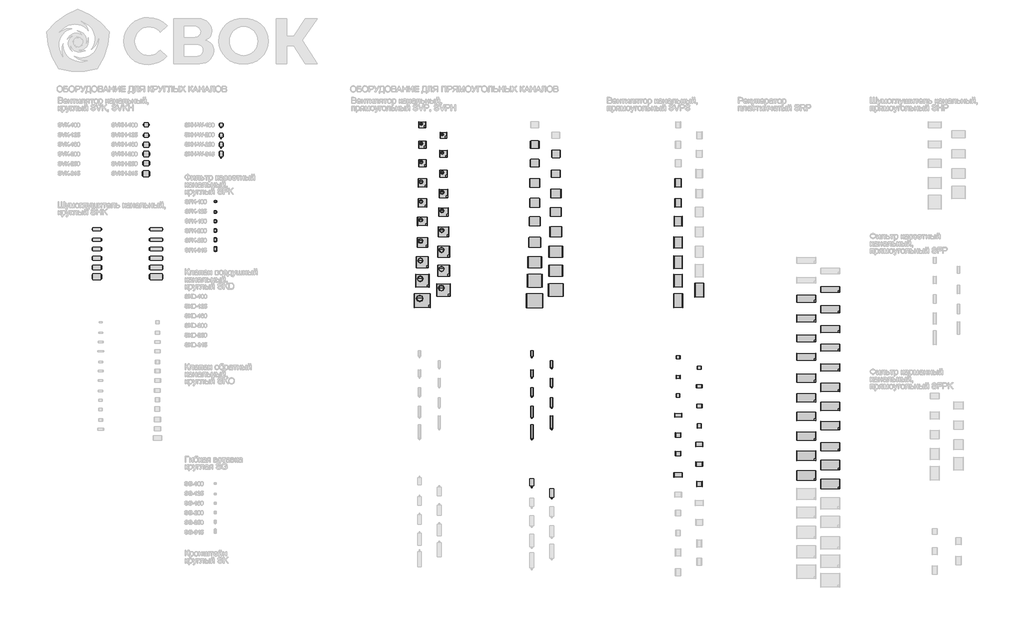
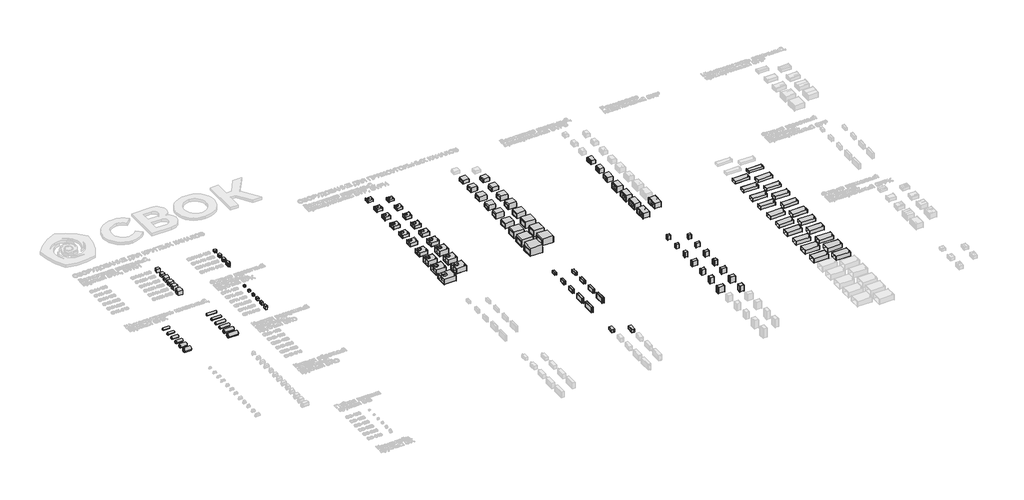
# One storey, part 2 of 31: 100 proxies, 18 dampers.
"""IFC4 building model written with IfcOpenShell, lengths in millimetres."""

from ifc_helpers import new_model, si_unit, origin, place, context, project, spatial, transform, mapped, element, save
from components import mechanical_equipment_2dddc4ea, mechanical_equipment_dcb78026, mechanical_equipment_cb800e3f, mechanical_equipment_2d8e173d, mechanical_equipment_c4cbaf2e, mechanical_equipment_7df6d9f4, mechanical_equipment_e96d5850, mechanical_equipment_5011dd88, mechanical_equipment_9b5d0357, mechanical_equipment_30f885cd, mechanical_equipment_d7fc5e09, mechanical_equipment_da5204e7, mechanical_equipment_16ef5390, mechanical_equipment_3a106ff5, mechanical_equipment_73fcf4e4, mechanical_equipment_ba056cf8, mechanical_equipment_08a73665, mechanical_equipment_8a46c2b9, mechanical_equipment_c179e901, mechanical_equipment_9b219624, mechanical_equipment_c9182f76, mechanical_equipment_2a61b2a6, mechanical_equipment_291a1020, mechanical_equipment_14c00c82, mechanical_equipment_2754de4d, mechanical_equipment_6cdd0354, mechanical_equipment_d871949b, mechanical_equipment_7f2987f5, mechanical_equipment_56067d51, mechanical_equipment_ec7d1ba4, mechanical_equipment_bd9f517a, mechanical_equipment_e5cbe710, mechanical_equipment_da63913f, mechanical_equipment_a99c537c, mechanical_equipment_67b06a08, mechanical_equipment_65e6200e, mechanical_equipment_d87ded08, mechanical_equipment_d0150384, mechanical_equipment_ec22e7db, mechanical_equipment_64b5c840, mechanical_equipment_bb8f5485, mechanical_equipment_36a0d534, mechanical_equipment_e328bcd5, mechanical_equipment_e2fa6b64, mechanical_equipment_d7a41091, mechanical_equipment_13f1d598, mechanical_equipment_c0174124, mechanical_equipment_df9b83cb, mechanical_equipment_9fc0d4ae, mechanical_equipment_28f21b0b, mechanical_equipment_bc9cfaa7, mechanical_equipment_96d1ef7d, mechanical_equipment_3e8a8446, mechanical_equipment_0f29fb4d, mechanical_equipment_15b2c1e0, mechanical_equipment_63632d9b, mechanical_equipment_16eab25d, mechanical_equipment_90fcd9c5, mechanical_equipment_c1b69434, mechanical_equipment_2ff812ec, mechanical_equipment_26e38f52, mechanical_equipment_aab2c1d2, mechanical_equipment_c664b790, mechanical_equipment_186e71d2, damper_bbc71dfa, damper_51019c5c, damper_d244b016, damper_0c9d338b, damper_0c81a020, damper_ecefcbed, damper_83553f87, damper_13c84012, damper_a21b50f8, damper_3751c1ea, damper_5eaaab7c, damper_b8da7f2a, sfk_100_f7b83489, sfk_125_d15dc6ad, sfk_160_7e5a682d, sfk_200_fe067b95, sfk_250_156bbf97, sfk_315_218a1dff

model = new_model("IFC4")

# Units and contexts
model_context = context("Model", 3, world=origin())
ifc_project = project(units=[si_unit("LENGTHUNIT", "METRE", prefix="MILLI")], contexts=[model_context])

# Site, building, storey
site = spatial("IfcSite", under=ifc_project)
building = spatial("IfcBuilding", under=site)
storey = spatial("IfcBuildingStorey", under=building, Name="Этаж 01", Elevation=0.0)

# Proxies
placement = place(None, origin())
mechanical_equipment_shape = mechanical_equipment_2dddc4ea(model_context)
element("IfcBuildingElementProxy", 1, Name="СВ_Вентилятор_КанальныйКруглый_DN100-315_SVK-SVKH : SVKH-100", ObjectType="СВ_Вентилятор_КанальныйКруглый_DN100-315_SVK-SVKH : SVKH-100", at=placement, inside=storey, context=model_context, shape_type="MappedRepresentation", body=[
    mapped(mechanical_equipment_shape, transform((7468.018566, -4100.0, 0.0), x_axis=(1.0, 0.0, 0.0), y_axis=(0.0, 1.0, 0.0), z_axis=(0.0, 0.0, 1.0))),
])
mechanical_equipment_2_shape = mechanical_equipment_dcb78026(model_context)
element("IfcBuildingElementProxy", 2, Name="СВ_Вентилятор_КанальныйКруглый_DN100-315_SVK-SVKH : SVKH-125", ObjectType="СВ_Вентилятор_КанальныйКруглый_DN100-315_SVK-SVKH : SVKH-125", at=placement, inside=storey, context=model_context, shape_type="MappedRepresentation", body=[
    mapped(mechanical_equipment_2_shape, transform((7468.018566, -4900.0, 0.0), x_axis=(1.0, 0.0, 0.0), y_axis=(0.0, 1.0, 0.0), z_axis=(0.0, 0.0, 1.0))),
])
mechanical_equipment_3_shape = mechanical_equipment_cb800e3f(model_context)
element("IfcBuildingElementProxy", 3, Name="СВ_Вентилятор_КанальныйКруглый_DN100-315_SVK-SVKH : SVKH-160", ObjectType="СВ_Вентилятор_КанальныйКруглый_DN100-315_SVK-SVKH : SVKH-160", at=placement, inside=storey, context=model_context, shape_type="MappedRepresentation", body=[
    mapped(mechanical_equipment_3_shape, transform((7468.018566, -5600.0, 0.0), x_axis=(1.0, 0.0, 0.0), y_axis=(0.0, 1.0, 0.0), z_axis=(0.0, 0.0, 1.0))),
])
mechanical_equipment_4_shape = mechanical_equipment_2d8e173d(model_context)
element("IfcBuildingElementProxy", 4, Name="СВ_Вентилятор_КанальныйКруглый_DN100-315_SVK-SVKH : SVKH-200", ObjectType="СВ_Вентилятор_КанальныйКруглый_DN100-315_SVK-SVKH : SVKH-200", at=placement, inside=storey, context=model_context, shape_type="MappedRepresentation", body=[
    mapped(mechanical_equipment_4_shape, transform((7468.018566, -6300.0, 0.0), x_axis=(1.0, 0.0, 0.0), y_axis=(0.0, 1.0, 0.0), z_axis=(0.0, 0.0, 1.0))),
])
mechanical_equipment_5_shape = mechanical_equipment_c4cbaf2e(model_context)
element("IfcBuildingElementProxy", 5, Name="СВ_Вентилятор_КанальныйКруглый_DN100-315_SVK-SVKH : SVKH-250", ObjectType="СВ_Вентилятор_КанальныйКруглый_DN100-315_SVK-SVKH : SVKH-250", at=placement, inside=storey, context=model_context, shape_type="MappedRepresentation", body=[
    mapped(mechanical_equipment_5_shape, transform((7468.018566, -7000.0, 0.0), x_axis=(1.0, 0.0, 0.0), y_axis=(0.0, 1.0, 0.0), z_axis=(0.0, 0.0, 1.0))),
])
mechanical_equipment_6_shape = mechanical_equipment_7df6d9f4(model_context)
element("IfcBuildingElementProxy", 6, Name="СВ_Вентилятор_КанальныйКруглый_DN100-315_SVK-SVKH : SVKH-315", ObjectType="СВ_Вентилятор_КанальныйКруглый_DN100-315_SVK-SVKH : SVKH-315", at=placement, inside=storey, context=model_context, shape_type="MappedRepresentation", body=[
    mapped(mechanical_equipment_6_shape, transform((7468.018566, -7800.0, 0.0), x_axis=(1.0, 0.0, 0.0), y_axis=(0.0, 1.0, 0.0), z_axis=(0.0, 0.0, 1.0))),
])
mechanical_equipment_7_shape = mechanical_equipment_e96d5850(model_context)
element("IfcBuildingElementProxy", 7, Name="СВ_ВоздухонагревательВодяной_КанальныйКруглый_DN160-315_SKH-W : SKH-W-160", ObjectType="СВ_ВоздухонагревательВодяной_КанальныйКруглый_DN160-315_SKH-W : SKH-W-160", at=placement, inside=storey, context=model_context, shape_type="MappedRepresentation", body=[
    mapped(mechanical_equipment_7_shape, transform((13148.018566, -4100.0, 0.0), x_axis=(1.0, 0.0, 0.0), y_axis=(0.0, 1.0, 0.0), z_axis=(0.0, 0.0, 1.0))),
])
mechanical_equipment_8_shape = mechanical_equipment_5011dd88(model_context)
element("IfcBuildingElementProxy", 8, Name="СВ_ВоздухонагревательВодяной_КанальныйКруглый_DN160-315_SKH-W : SKH-W-200", ObjectType="СВ_ВоздухонагревательВодяной_КанальныйКруглый_DN160-315_SKH-W : SKH-W-200", at=placement, inside=storey, context=model_context, shape_type="MappedRepresentation", body=[
    mapped(mechanical_equipment_8_shape, transform((13148.018566, -4900.0, 0.0), x_axis=(1.0, 0.0, 0.0), y_axis=(0.0, 1.0, 0.0), z_axis=(0.0, 0.0, 1.0))),
])
mechanical_equipment_9_shape = mechanical_equipment_9b5d0357(model_context)
element("IfcBuildingElementProxy", 9, Name="СВ_ВоздухонагревательВодяной_КанальныйКруглый_DN160-315_SKH-W : SKH-W-250", ObjectType="СВ_ВоздухонагревательВодяной_КанальныйКруглый_DN160-315_SKH-W : SKH-W-250", at=placement, inside=storey, context=model_context, shape_type="MappedRepresentation", body=[
    mapped(mechanical_equipment_9_shape, transform((13148.018566, -5600.0, 0.0), x_axis=(1.0, 0.0, 0.0), y_axis=(0.0, 1.0, 0.0), z_axis=(0.0, 0.0, 1.0))),
])
mechanical_equipment_10_shape = mechanical_equipment_30f885cd(model_context)
element("IfcBuildingElementProxy", 10, Name="СВ_ВоздухонагревательВодяной_КанальныйКруглый_DN160-315_SKH-W : SKH-W-315", ObjectType="СВ_ВоздухонагревательВодяной_КанальныйКруглый_DN160-315_SKH-W : SKH-W-315", at=placement, inside=storey, context=model_context, shape_type="MappedRepresentation", body=[
    mapped(mechanical_equipment_10_shape, transform((13148.018566, -6300.0, 0.0), x_axis=(1.0, 0.0, 0.0), y_axis=(0.0, 1.0, 0.0), z_axis=(0.0, 0.0, 1.0))),
])
mechanical_equipment_11_shape = mechanical_equipment_d7fc5e09(model_context)
element("IfcBuildingElementProxy", 11, Name="СВ_Вентилятор_КанальныйПрямоугольный_200-1000_SVP-SVPH : SVP-400x200/200.4Е", ObjectType="СВ_Вентилятор_КанальныйПрямоугольный_200-1000_SVP-SVPH : SVP-400x200/200.4Е", at=placement, inside=storey, context=model_context, shape_type="MappedRepresentation", body=[
    mapped(mechanical_equipment_11_shape, transform((28368.018566, -4100.0, 0.0), x_axis=(1.0, 0.0, 0.0), y_axis=(0.0, 1.0, 0.0), z_axis=(0.0, 0.0, 1.0))),
])
element("IfcBuildingElementProxy", 12, Name="СВ_Вентилятор_КанальныйПрямоугольный_200-1000_SVP-SVPH : SVP-400x200/200.4D", ObjectType="СВ_Вентилятор_КанальныйПрямоугольный_200-1000_SVP-SVPH : SVP-400x200/200.4D", at=placement, inside=storey, context=model_context, shape_type="MappedRepresentation", body=[
    mapped(mechanical_equipment_11_shape, transform((29968.018566, -4900.0, 0.0), x_axis=(1.0, 0.0, 0.0), y_axis=(0.0, 1.0, 0.0), z_axis=(0.0, 0.0, 1.0))),
])
mechanical_equipment_12_shape = mechanical_equipment_da5204e7(model_context)
element("IfcBuildingElementProxy", 13, Name="СВ_Вентилятор_КанальныйПрямоугольный_200-1000_SVP-SVPH : SVP-500x250/225.4Е", ObjectType="СВ_Вентилятор_КанальныйПрямоугольный_200-1000_SVP-SVPH : SVP-500x250/225.4Е", at=placement, inside=storey, context=model_context, shape_type="MappedRepresentation", body=[
    mapped(mechanical_equipment_12_shape, transform((28368.018566, -5600.0, 0.0), x_axis=(1.0, 0.0, 0.0), y_axis=(0.0, 1.0, 0.0), z_axis=(0.0, 0.0, 1.0))),
])
element("IfcBuildingElementProxy", 14, Name="СВ_Вентилятор_КанальныйПрямоугольный_200-1000_SVP-SVPH : SVP-500x250/225.4D", ObjectType="СВ_Вентилятор_КанальныйПрямоугольный_200-1000_SVP-SVPH : SVP-500x250/225.4D", at=placement, inside=storey, context=model_context, shape_type="MappedRepresentation", body=[
    mapped(mechanical_equipment_12_shape, transform((29968.018566, -6300.0, 0.0), x_axis=(1.0, 0.0, 0.0), y_axis=(0.0, 1.0, 0.0), z_axis=(0.0, 0.0, 1.0))),
])
mechanical_equipment_13_shape = mechanical_equipment_16ef5390(model_context)
element("IfcBuildingElementProxy", 15, Name="СВ_Вентилятор_КанальныйПрямоугольный_200-1000_SVP-SVPH : SVP-500x300/250.4Е", ObjectType="СВ_Вентилятор_КанальныйПрямоугольный_200-1000_SVP-SVPH : SVP-500x300/250.4Е", at=placement, inside=storey, context=model_context, shape_type="MappedRepresentation", body=[
    mapped(mechanical_equipment_13_shape, transform((28368.018566, -7000.0, 0.0), x_axis=(1.0, 0.0, 0.0), y_axis=(0.0, 1.0, 0.0), z_axis=(0.0, 0.0, 1.0))),
])
element("IfcBuildingElementProxy", 16, Name="СВ_Вентилятор_КанальныйПрямоугольный_200-1000_SVP-SVPH : SVP-500x300/250.4D", ObjectType="СВ_Вентилятор_КанальныйПрямоугольный_200-1000_SVP-SVPH : SVP-500x300/250.4D", at=placement, inside=storey, context=model_context, shape_type="MappedRepresentation", body=[
    mapped(mechanical_equipment_13_shape, transform((29968.018566, -7800.0, 0.0), x_axis=(1.0, 0.0, 0.0), y_axis=(0.0, 1.0, 0.0), z_axis=(0.0, 0.0, 1.0))),
])
mechanical_equipment_14_shape = mechanical_equipment_3a106ff5(model_context)
element("IfcBuildingElementProxy", 17, Name="СВ_Вентилятор_КанальныйПрямоугольный_200-1000_SVP-SVPH : SVP-600x300/280.4Е", ObjectType="СВ_Вентилятор_КанальныйПрямоугольный_200-1000_SVP-SVPH : SVP-600x300/280.4Е", at=placement, inside=storey, context=model_context, shape_type="MappedRepresentation", body=[
    mapped(mechanical_equipment_14_shape, transform((28368.018566, -8500.0, 0.0), x_axis=(1.0, 0.0, 0.0), y_axis=(0.0, 1.0, 0.0), z_axis=(0.0, 0.0, 1.0))),
])
element("IfcBuildingElementProxy", 18, Name="СВ_Вентилятор_КанальныйПрямоугольный_200-1000_SVP-SVPH : SVP-600x300/280.4D", ObjectType="СВ_Вентилятор_КанальныйПрямоугольный_200-1000_SVP-SVPH : SVP-600x300/280.4D", at=placement, inside=storey, context=model_context, shape_type="MappedRepresentation", body=[
    mapped(mechanical_equipment_14_shape, transform((29968.018566, -9300.0, 0.0), x_axis=(1.0, 0.0, 0.0), y_axis=(0.0, 1.0, 0.0), z_axis=(0.0, 0.0, 1.0))),
])
element("IfcBuildingElementProxy", 19, Name="СВ_Вентилятор_КанальныйПрямоугольный_200-1000_SVP-SVPH : SVP-600x300/280.6D", ObjectType="СВ_Вентилятор_КанальныйПрямоугольный_200-1000_SVP-SVPH : SVP-600x300/280.6D", at=placement, inside=storey, context=model_context, shape_type="MappedRepresentation", body=[
    mapped(mechanical_equipment_14_shape, transform((28368.018566, -10000.0, 0.0), x_axis=(1.0, 0.0, 0.0), y_axis=(0.0, 1.0, 0.0), z_axis=(0.0, 0.0, 1.0))),
])
mechanical_equipment_15_shape = mechanical_equipment_73fcf4e4(model_context)
element("IfcBuildingElementProxy", 20, Name="СВ_Вентилятор_КанальныйПрямоугольный_200-1000_SVP-SVPH : SVP-600x350/315.4D", ObjectType="СВ_Вентилятор_КанальныйПрямоугольный_200-1000_SVP-SVPH : SVP-600x350/315.4D", at=placement, inside=storey, context=model_context, shape_type="MappedRepresentation", body=[
    mapped(mechanical_equipment_15_shape, transform((29968.018566, -10700.0, 0.0), x_axis=(1.0, 0.0, 0.0), y_axis=(0.0, 1.0, 0.0), z_axis=(0.0, 0.0, 1.0))),
])
element("IfcBuildingElementProxy", 21, Name="СВ_Вентилятор_КанальныйПрямоугольный_200-1000_SVP-SVPH : SVP-600x350/315.6D", ObjectType="СВ_Вентилятор_КанальныйПрямоугольный_200-1000_SVP-SVPH : SVP-600x350/315.6D", at=placement, inside=storey, context=model_context, shape_type="MappedRepresentation", body=[
    mapped(mechanical_equipment_15_shape, transform((28368.018566, -11400.0, 0.0), x_axis=(1.0, 0.0, 0.0), y_axis=(0.0, 1.0, 0.0), z_axis=(0.0, 0.0, 1.0))),
])
mechanical_equipment_16_shape = mechanical_equipment_ba056cf8(model_context)
element("IfcBuildingElementProxy", 22, Name="СВ_Вентилятор_КанальныйПрямоугольный_200-1000_SVP-SVPH : SVP-700x400/355.4D", ObjectType="СВ_Вентилятор_КанальныйПрямоугольный_200-1000_SVP-SVPH : SVP-700x400/355.4D", at=placement, inside=storey, context=model_context, shape_type="MappedRepresentation", body=[
    mapped(mechanical_equipment_16_shape, transform((29968.018566, -12200.0, 0.0), x_axis=(1.0, 0.0, 0.0), y_axis=(0.0, 1.0, 0.0), z_axis=(0.0, 0.0, 1.0))),
])
element("IfcBuildingElementProxy", 23, Name="СВ_Вентилятор_КанальныйПрямоугольный_200-1000_SVP-SVPH : SVP-700x400/355.6D", ObjectType="СВ_Вентилятор_КанальныйПрямоугольный_200-1000_SVP-SVPH : SVP-700x400/355.6D", at=placement, inside=storey, context=model_context, shape_type="MappedRepresentation", body=[
    mapped(mechanical_equipment_16_shape, transform((28368.018566, -13000.0, 0.0), x_axis=(1.0, 0.0, 0.0), y_axis=(0.0, 1.0, 0.0), z_axis=(0.0, 0.0, 1.0))),
])
mechanical_equipment_17_shape = mechanical_equipment_08a73665(model_context)
element("IfcBuildingElementProxy", 24, Name="СВ_Вентилятор_КанальныйПрямоугольный_200-1000_SVP-SVPH : SVP-800x500/400.4D", ObjectType="СВ_Вентилятор_КанальныйПрямоугольный_200-1000_SVP-SVPH : SVP-800x500/400.4D", at=placement, inside=storey, context=model_context, shape_type="MappedRepresentation", body=[
    mapped(mechanical_equipment_17_shape, transform((29968.018566, -13700.0, 0.0), x_axis=(1.0, 0.0, 0.0), y_axis=(0.0, 1.0, 0.0), z_axis=(0.0, 0.0, 1.0))),
])
element("IfcBuildingElementProxy", 25, Name="СВ_Вентилятор_КанальныйПрямоугольный_200-1000_SVP-SVPH : SVP-800x500/400.6D", ObjectType="СВ_Вентилятор_КанальныйПрямоугольный_200-1000_SVP-SVPH : SVP-800x500/400.6D", at=placement, inside=storey, context=model_context, shape_type="MappedRepresentation", body=[
    mapped(mechanical_equipment_17_shape, transform((28368.018566, -14500.0, 0.0), x_axis=(1.0, 0.0, 0.0), y_axis=(0.0, 1.0, 0.0), z_axis=(0.0, 0.0, 1.0))),
])
element("IfcBuildingElementProxy", 26, Name="СВ_Вентилятор_КанальныйПрямоугольный_200-1000_SVP-SVPH : SVP-800x500/400.8D", ObjectType="СВ_Вентилятор_КанальныйПрямоугольный_200-1000_SVP-SVPH : SVP-800x500/400.8D", at=placement, inside=storey, context=model_context, shape_type="MappedRepresentation", body=[
    mapped(mechanical_equipment_17_shape, transform((29968.018566, -15140.0, 0.0), x_axis=(1.0, 0.0, 0.0), y_axis=(0.0, 1.0, 0.0), z_axis=(0.0, 0.0, 1.0))),
])
mechanical_equipment_18_shape = mechanical_equipment_8a46c2b9(model_context)
element("IfcBuildingElementProxy", 27, Name="СВ_Вентилятор_КанальныйПрямоугольный_200-1000_SVP-SVPH : SVP-900x500/450.6D", ObjectType="СВ_Вентилятор_КанальныйПрямоугольный_200-1000_SVP-SVPH : SVP-900x500/450.6D", at=placement, inside=storey, context=model_context, shape_type="MappedRepresentation", body=[
    mapped(mechanical_equipment_18_shape, transform((28368.018566, -15900.0, 0.0), x_axis=(1.0, 0.0, 0.0), y_axis=(0.0, 1.0, 0.0), z_axis=(0.0, 0.0, 1.0))),
])
element("IfcBuildingElementProxy", 28, Name="СВ_Вентилятор_КанальныйПрямоугольный_200-1000_SVP-SVPH : SVP-900x500/450.8D", ObjectType="СВ_Вентилятор_КанальныйПрямоугольный_200-1000_SVP-SVPH : SVP-900x500/450.8D", at=placement, inside=storey, context=model_context, shape_type="MappedRepresentation", body=[
    mapped(mechanical_equipment_18_shape, transform((29968.018566, -16600.0, 0.0), x_axis=(1.0, 0.0, 0.0), y_axis=(0.0, 1.0, 0.0), z_axis=(0.0, 0.0, 1.0))),
])
mechanical_equipment_19_shape = mechanical_equipment_c179e901(model_context)
element("IfcBuildingElementProxy", 29, Name="СВ_Вентилятор_КанальныйПрямоугольный_200-1000_SVP-SVPH : SVP-1000x500/630.4D", ObjectType="СВ_Вентилятор_КанальныйПрямоугольный_200-1000_SVP-SVPH : SVP-1000x500/630.4D", at=placement, inside=storey, context=model_context, shape_type="MappedRepresentation", body=[
    mapped(mechanical_equipment_19_shape, transform((28368.018566, -17400.0, 0.0), x_axis=(1.0, 0.0, 0.0), y_axis=(0.0, 1.0, 0.0), z_axis=(0.0, 0.0, 1.0))),
])
mechanical_equipment_20_shape = mechanical_equipment_9b219624(model_context)
element("IfcBuildingElementProxy", 30, Name="СВ_Вентилятор_КанальныйПрямоугольный_200-1000_SVP-SVPH : SVPH-500x250/225.4Е", ObjectType="СВ_Вентилятор_КанальныйПрямоугольный_200-1000_SVP-SVPH : SVPH-500x250/225.4Е", at=placement, inside=storey, context=model_context, shape_type="MappedRepresentation", body=[
    mapped(mechanical_equipment_20_shape, transform((36868.018566, -5600.0, 0.0), x_axis=(1.0, 0.0, 0.0), y_axis=(0.0, 1.0, 0.0), z_axis=(0.0, 0.0, 1.0))),
])
element("IfcBuildingElementProxy", 31, Name="СВ_Вентилятор_КанальныйПрямоугольный_200-1000_SVP-SVPH : SVPH-500x250/225.4D", ObjectType="СВ_Вентилятор_КанальныйПрямоугольный_200-1000_SVP-SVPH : SVPH-500x250/225.4D", at=placement, inside=storey, context=model_context, shape_type="MappedRepresentation", body=[
    mapped(mechanical_equipment_20_shape, transform((38468.018566, -6300.0, 0.0), x_axis=(1.0, 0.0, 0.0), y_axis=(0.0, 1.0, 0.0), z_axis=(0.0, 0.0, 1.0))),
])
mechanical_equipment_21_shape = mechanical_equipment_c9182f76(model_context)
element("IfcBuildingElementProxy", 32, Name="СВ_Вентилятор_КанальныйПрямоугольный_200-1000_SVP-SVPH : SVPH-500x300/250.4Е", ObjectType="СВ_Вентилятор_КанальныйПрямоугольный_200-1000_SVP-SVPH : SVPH-500x300/250.4Е", at=placement, inside=storey, context=model_context, shape_type="MappedRepresentation", body=[
    mapped(mechanical_equipment_21_shape, transform((36868.018566, -7000.0, 0.0), x_axis=(1.0, 0.0, 0.0), y_axis=(0.0, 1.0, 0.0), z_axis=(0.0, 0.0, 1.0))),
])
element("IfcBuildingElementProxy", 33, Name="СВ_Вентилятор_КанальныйПрямоугольный_200-1000_SVP-SVPH : SVPH-500x300/250.4D", ObjectType="СВ_Вентилятор_КанальныйПрямоугольный_200-1000_SVP-SVPH : SVPH-500x300/250.4D", at=placement, inside=storey, context=model_context, shape_type="MappedRepresentation", body=[
    mapped(mechanical_equipment_21_shape, transform((38468.018566, -7800.0, 0.0), x_axis=(1.0, 0.0, 0.0), y_axis=(0.0, 1.0, 0.0), z_axis=(0.0, 0.0, 1.0))),
])
mechanical_equipment_22_shape = mechanical_equipment_2a61b2a6(model_context)
element("IfcBuildingElementProxy", 34, Name="СВ_Вентилятор_КанальныйПрямоугольный_200-1000_SVP-SVPH : SVPH-600x300/280.4Е", ObjectType="СВ_Вентилятор_КанальныйПрямоугольный_200-1000_SVP-SVPH : SVPH-600x300/280.4Е", at=placement, inside=storey, context=model_context, shape_type="MappedRepresentation", body=[
    mapped(mechanical_equipment_22_shape, transform((36868.018566, -8500.0, 0.0), x_axis=(1.0, 0.0, 0.0), y_axis=(0.0, 1.0, 0.0), z_axis=(0.0, 0.0, 1.0))),
])
element("IfcBuildingElementProxy", 35, Name="СВ_Вентилятор_КанальныйПрямоугольный_200-1000_SVP-SVPH : SVPH-600x300/280.4D", ObjectType="СВ_Вентилятор_КанальныйПрямоугольный_200-1000_SVP-SVPH : SVPH-600x300/280.4D", at=placement, inside=storey, context=model_context, shape_type="MappedRepresentation", body=[
    mapped(mechanical_equipment_22_shape, transform((38468.018566, -9300.0, 0.0), x_axis=(1.0, 0.0, 0.0), y_axis=(0.0, 1.0, 0.0), z_axis=(0.0, 0.0, 1.0))),
])
element("IfcBuildingElementProxy", 36, Name="СВ_Вентилятор_КанальныйПрямоугольный_200-1000_SVP-SVPH : SVPH-600x300/280.6D", ObjectType="СВ_Вентилятор_КанальныйПрямоугольный_200-1000_SVP-SVPH : SVPH-600x300/280.6D", at=placement, inside=storey, context=model_context, shape_type="MappedRepresentation", body=[
    mapped(mechanical_equipment_22_shape, transform((36868.018566, -10000.0, 0.0), x_axis=(1.0, 0.0, 0.0), y_axis=(0.0, 1.0, 0.0), z_axis=(0.0, 0.0, 1.0))),
])
mechanical_equipment_23_shape = mechanical_equipment_291a1020(model_context)
element("IfcBuildingElementProxy", 37, Name="СВ_Вентилятор_КанальныйПрямоугольный_200-1000_SVP-SVPH : SVPH-600x350/315.4D", ObjectType="СВ_Вентилятор_КанальныйПрямоугольный_200-1000_SVP-SVPH : SVPH-600x350/315.4D", at=placement, inside=storey, context=model_context, shape_type="MappedRepresentation", body=[
    mapped(mechanical_equipment_23_shape, transform((38468.018566, -10700.0, 0.0), x_axis=(1.0, 0.0, 0.0), y_axis=(0.0, 1.0, 0.0), z_axis=(0.0, 0.0, 1.0))),
])
element("IfcBuildingElementProxy", 38, Name="СВ_Вентилятор_КанальныйПрямоугольный_200-1000_SVP-SVPH : SVPH-600x350/315.6D", ObjectType="СВ_Вентилятор_КанальныйПрямоугольный_200-1000_SVP-SVPH : SVPH-600x350/315.6D", at=placement, inside=storey, context=model_context, shape_type="MappedRepresentation", body=[
    mapped(mechanical_equipment_23_shape, transform((36868.018566, -11400.0, 0.0), x_axis=(1.0, 0.0, 0.0), y_axis=(0.0, 1.0, 0.0), z_axis=(0.0, 0.0, 1.0))),
])
mechanical_equipment_24_shape = mechanical_equipment_14c00c82(model_context)
element("IfcBuildingElementProxy", 39, Name="СВ_Вентилятор_КанальныйПрямоугольный_200-1000_SVP-SVPH : SVPH-700x400/355.4D", ObjectType="СВ_Вентилятор_КанальныйПрямоугольный_200-1000_SVP-SVPH : SVPH-700x400/355.4D", at=placement, inside=storey, context=model_context, shape_type="MappedRepresentation", body=[
    mapped(mechanical_equipment_24_shape, transform((38468.018566, -12200.0, 0.0), x_axis=(1.0, 0.0, 0.0), y_axis=(0.0, 1.0, 0.0), z_axis=(0.0, 0.0, 1.0))),
])
element("IfcBuildingElementProxy", 40, Name="СВ_Вентилятор_КанальныйПрямоугольный_200-1000_SVP-SVPH : SVPH-700x400/355.6D", ObjectType="СВ_Вентилятор_КанальныйПрямоугольный_200-1000_SVP-SVPH : SVPH-700x400/355.6D", at=placement, inside=storey, context=model_context, shape_type="MappedRepresentation", body=[
    mapped(mechanical_equipment_24_shape, transform((36868.018566, -13000.0, 0.0), x_axis=(1.0, 0.0, 0.0), y_axis=(0.0, 1.0, 0.0), z_axis=(0.0, 0.0, 1.0))),
])
mechanical_equipment_25_shape = mechanical_equipment_2754de4d(model_context)
element("IfcBuildingElementProxy", 41, Name="СВ_Вентилятор_КанальныйПрямоугольный_200-1000_SVP-SVPH : SVPH-800x500/400.4D", ObjectType="СВ_Вентилятор_КанальныйПрямоугольный_200-1000_SVP-SVPH : SVPH-800x500/400.4D", at=placement, inside=storey, context=model_context, shape_type="MappedRepresentation", body=[
    mapped(mechanical_equipment_25_shape, transform((38468.018566, -13700.0, 0.0), x_axis=(1.0, 0.0, 0.0), y_axis=(0.0, 1.0, 0.0), z_axis=(0.0, 0.0, 1.0))),
])
element("IfcBuildingElementProxy", 42, Name="СВ_Вентилятор_КанальныйПрямоугольный_200-1000_SVP-SVPH : SVPH-800x500/400.6D", ObjectType="СВ_Вентилятор_КанальныйПрямоугольный_200-1000_SVP-SVPH : SVPH-800x500/400.6D", at=placement, inside=storey, context=model_context, shape_type="MappedRepresentation", body=[
    mapped(mechanical_equipment_25_shape, transform((36868.018566, -14500.0, 0.0), x_axis=(1.0, 0.0, 0.0), y_axis=(0.0, 1.0, 0.0), z_axis=(0.0, 0.0, 1.0))),
])
element("IfcBuildingElementProxy", 43, Name="СВ_Вентилятор_КанальныйПрямоугольный_200-1000_SVP-SVPH : SVPH-800x500/400.8D", ObjectType="СВ_Вентилятор_КанальныйПрямоугольный_200-1000_SVP-SVPH : SVPH-800x500/400.8D", at=placement, inside=storey, context=model_context, shape_type="MappedRepresentation", body=[
    mapped(mechanical_equipment_25_shape, transform((38468.018566, -15140.0, 0.0), x_axis=(1.0, 0.0, 0.0), y_axis=(0.0, 1.0, 0.0), z_axis=(0.0, 0.0, 1.0))),
])
mechanical_equipment_26_shape = mechanical_equipment_6cdd0354(model_context)
element("IfcBuildingElementProxy", 44, Name="СВ_Вентилятор_КанальныйПрямоугольный_200-1000_SVP-SVPH : SVPH-900x500/450.6D", ObjectType="СВ_Вентилятор_КанальныйПрямоугольный_200-1000_SVP-SVPH : SVPH-900x500/450.6D", at=placement, inside=storey, context=model_context, shape_type="MappedRepresentation", body=[
    mapped(mechanical_equipment_26_shape, transform((36868.018566, -15900.0, 0.0), x_axis=(1.0, 0.0, 0.0), y_axis=(0.0, 1.0, 0.0), z_axis=(0.0, 0.0, 1.0))),
])
element("IfcBuildingElementProxy", 45, Name="СВ_Вентилятор_КанальныйПрямоугольный_200-1000_SVP-SVPH : SVPH-900x500/450.8D", ObjectType="СВ_Вентилятор_КанальныйПрямоугольный_200-1000_SVP-SVPH : SVPH-900x500/450.8D", at=placement, inside=storey, context=model_context, shape_type="MappedRepresentation", body=[
    mapped(mechanical_equipment_26_shape, transform((38468.018566, -16600.0, 0.0), x_axis=(1.0, 0.0, 0.0), y_axis=(0.0, 1.0, 0.0), z_axis=(0.0, 0.0, 1.0))),
])
mechanical_equipment_27_shape = mechanical_equipment_d871949b(model_context)
element("IfcBuildingElementProxy", 46, Name="СВ_Вентилятор_КанальныйПрямоугольный_200-1000_SVP-SVPH : SVPH-1000x500/630.4D", ObjectType="СВ_Вентилятор_КанальныйПрямоугольный_200-1000_SVP-SVPH : SVPH-1000x500/630.4D", at=placement, inside=storey, context=model_context, shape_type="MappedRepresentation", body=[
    mapped(mechanical_equipment_27_shape, transform((36868.018566, -17400.0, 0.0), x_axis=(1.0, 0.0, 0.0), y_axis=(0.0, 1.0, 0.0), z_axis=(0.0, 0.0, 1.0))),
])
mechanical_equipment_28_shape = mechanical_equipment_7f2987f5(model_context)
element("IfcBuildingElementProxy", 47, Name="СВ_Вентилятор_КанальныйПрямоугольный_200-1000_SVPS : SVPS-600x300/28.2D", ObjectType="СВ_Вентилятор_КанальныйПрямоугольный_200-1000_SVPS : SVPS-600x300/28.2D", at=placement, inside=storey, context=model_context, shape_type="MappedRepresentation", body=[
    mapped(mechanical_equipment_28_shape, transform((47719.2858067, -8500.0, 0.0), x_axis=(1.0, 0.0, 0.0), y_axis=(0.0, 1.0, 0.0), z_axis=(0.0, 0.0, 1.0))),
])
mechanical_equipment_29_shape = mechanical_equipment_56067d51(model_context)
element("IfcBuildingElementProxy", 48, Name="СВ_Вентилятор_КанальныйПрямоугольный_200-1000_SVPS : SVPS-600x350/31.2D", ObjectType="СВ_Вентилятор_КанальныйПрямоугольный_200-1000_SVPS : SVPS-600x350/31.2D", at=placement, inside=storey, context=model_context, shape_type="MappedRepresentation", body=[
    mapped(mechanical_equipment_29_shape, transform((47719.2858067, -10000.0, 0.0), x_axis=(1.0, 0.0, 0.0), y_axis=(0.0, 1.0, 0.0), z_axis=(0.0, 0.0, 1.0))),
])
mechanical_equipment_30_shape = mechanical_equipment_ec7d1ba4(model_context)
element("IfcBuildingElementProxy", 49, Name="СВ_Вентилятор_КанальныйПрямоугольный_200-1000_SVPS : SVPS-700x400/31.2D", ObjectType="СВ_Вентилятор_КанальныйПрямоугольный_200-1000_SVPS : SVPS-700x400/31.2D", at=placement, inside=storey, context=model_context, shape_type="MappedRepresentation", body=[
    mapped(mechanical_equipment_30_shape, transform((47719.2858067, -11400.0, 0.0), x_axis=(1.0, 0.0, 0.0), y_axis=(0.0, 1.0, 0.0), z_axis=(0.0, 0.0, 1.0))),
])
mechanical_equipment_31_shape = mechanical_equipment_bd9f517a(model_context)
element("IfcBuildingElementProxy", 50, Name="СВ_Вентилятор_КанальныйПрямоугольный_200-1000_SVPS : SVPS-800x500/35.2D", ObjectType="СВ_Вентилятор_КанальныйПрямоугольный_200-1000_SVPS : SVPS-800x500/35.2D", at=placement, inside=storey, context=model_context, shape_type="MappedRepresentation", body=[
    mapped(mechanical_equipment_31_shape, transform((47719.2858067, -13000.0, 0.0), x_axis=(1.0, 0.0, 0.0), y_axis=(0.0, 1.0, 0.0), z_axis=(0.0, 0.0, 1.0))),
])
mechanical_equipment_32_shape = mechanical_equipment_e5cbe710(model_context)
element("IfcBuildingElementProxy", 51, Name="СВ_Вентилятор_КанальныйПрямоугольный_200-1000_SVPS : SVPS-900x500/35.2D", ObjectType="СВ_Вентилятор_КанальныйПрямоугольный_200-1000_SVPS : SVPS-900x500/35.2D", at=placement, inside=storey, context=model_context, shape_type="MappedRepresentation", body=[
    mapped(mechanical_equipment_32_shape, transform((47719.2858067, -14500.0, 0.0), x_axis=(1.0, 0.0, 0.0), y_axis=(0.0, 1.0, 0.0), z_axis=(0.0, 0.0, 1.0))),
])
mechanical_equipment_33_shape = mechanical_equipment_da63913f(model_context)
element("IfcBuildingElementProxy", 52, Name="СВ_Вентилятор_КанальныйПрямоугольный_200-1000_SVPS : SVPS-900x500/40.4D", ObjectType="СВ_Вентилятор_КанальныйПрямоугольный_200-1000_SVPS : SVPS-900x500/40.4D", at=placement, inside=storey, context=model_context, shape_type="MappedRepresentation", body=[
    mapped(mechanical_equipment_33_shape, transform((47719.2858067, -15900.0, 0.0), x_axis=(1.0, 0.0, 0.0), y_axis=(0.0, 1.0, 0.0), z_axis=(0.0, 0.0, 1.0))),
])
mechanical_equipment_34_shape = mechanical_equipment_a99c537c(model_context)
element("IfcBuildingElementProxy", 53, Name="СВ_Вентилятор_КанальныйПрямоугольный_200-1000_SVPS : SVPS-1000x500/40.2D", ObjectType="СВ_Вентилятор_КанальныйПрямоугольный_200-1000_SVPS : SVPS-1000x500/40.2D", at=placement, inside=storey, context=model_context, shape_type="MappedRepresentation", body=[
    mapped(mechanical_equipment_34_shape, transform((49319.2858067, -16600.0, 0.0), x_axis=(1.0, 0.0, 0.0), y_axis=(0.0, 1.0, 0.0), z_axis=(0.0, 0.0, 1.0))),
])
mechanical_equipment_35_shape = mechanical_equipment_67b06a08(model_context)
element("IfcBuildingElementProxy", 54, Name="СВ_Вентилятор_КанальныйПрямоугольный_200-1000_SVPS : SVPS-1000x500/45.4D", ObjectType="СВ_Вентилятор_КанальныйПрямоугольный_200-1000_SVPS : SVPS-1000x500/45.4D", at=placement, inside=storey, context=model_context, shape_type="MappedRepresentation", body=[
    mapped(mechanical_equipment_35_shape, transform((47719.2858067, -17400.0, 0.0), x_axis=(1.0, 0.0, 0.0), y_axis=(0.0, 1.0, 0.0), z_axis=(0.0, 0.0, 1.0))),
])
mechanical_equipment_36_shape = mechanical_equipment_65e6200e(model_context)
element("IfcBuildingElementProxy", 55, Name="СВ_ВоздухонагревательВодяной_КанальныйПрямоугольный_200-1000_SPH-W : SPH-W-400x200/3", ObjectType="СВ_ВоздухонагревательВодяной_КанальныйПрямоугольный_200-1000_SPH-W : SPH-W-400x200/3", at=placement, inside=storey, context=model_context, shape_type="MappedRepresentation", body=[
    mapped(mechanical_equipment_36_shape, transform((36648.018566, -21406.6655363, 0.0), x_axis=(1.0, 0.0, 0.0), y_axis=(0.0, 1.0, 0.0), z_axis=(0.0, 0.0, 1.0))),
])
mechanical_equipment_37_shape = mechanical_equipment_d87ded08(model_context)
element("IfcBuildingElementProxy", 56, Name="СВ_ВоздухонагревательВодяной_КанальныйПрямоугольный_200-1000_SPH-W : SPH-W-500x250/3", ObjectType="СВ_ВоздухонагревательВодяной_КанальныйПрямоугольный_200-1000_SPH-W : SPH-W-500x250/3", at=placement, inside=storey, context=model_context, shape_type="MappedRepresentation", body=[
    mapped(mechanical_equipment_37_shape, transform((38148.018566, -22206.6655363, 0.0), x_axis=(1.0, 0.0, 0.0), y_axis=(0.0, 1.0, 0.0), z_axis=(0.0, 0.0, 1.0))),
])
mechanical_equipment_38_shape = mechanical_equipment_d0150384(model_context)
element("IfcBuildingElementProxy", 57, Name="СВ_ВоздухонагревательВодяной_КанальныйПрямоугольный_200-1000_SPH-W : SPH-W-500x300/3", ObjectType="СВ_ВоздухонагревательВодяной_КанальныйПрямоугольный_200-1000_SPH-W : SPH-W-500x300/3", at=placement, inside=storey, context=model_context, shape_type="MappedRepresentation", body=[
    mapped(mechanical_equipment_38_shape, transform((36648.018566, -22906.6655363, 0.0), x_axis=(1.0, 0.0, 0.0), y_axis=(0.0, 1.0, 0.0), z_axis=(0.0, 0.0, 1.0))),
])
mechanical_equipment_39_shape = mechanical_equipment_ec22e7db(model_context)
element("IfcBuildingElementProxy", 58, Name="СВ_ВоздухонагревательВодяной_КанальныйПрямоугольный_200-1000_SPH-W : SPH-W-600x300/3", ObjectType="СВ_ВоздухонагревательВодяной_КанальныйПрямоугольный_200-1000_SPH-W : SPH-W-600x300/3", at=placement, inside=storey, context=model_context, shape_type="MappedRepresentation", body=[
    mapped(mechanical_equipment_39_shape, transform((38148.018566, -23606.6655363, 0.0), x_axis=(1.0, 0.0, 0.0), y_axis=(0.0, 1.0, 0.0), z_axis=(0.0, 0.0, 1.0))),
])
mechanical_equipment_40_shape = mechanical_equipment_64b5c840(model_context)
element("IfcBuildingElementProxy", 59, Name="СВ_ВоздухонагревательВодяной_КанальныйПрямоугольный_200-1000_SPH-W : SPH-W-600x350/3", ObjectType="СВ_ВоздухонагревательВодяной_КанальныйПрямоугольный_200-1000_SPH-W : SPH-W-600x350/3", at=placement, inside=storey, context=model_context, shape_type="MappedRepresentation", body=[
    mapped(mechanical_equipment_40_shape, transform((36648.018566, -24306.6655363, 0.0), x_axis=(1.0, 0.0, 0.0), y_axis=(0.0, 1.0, 0.0), z_axis=(0.0, 0.0, 1.0))),
])
mechanical_equipment_41_shape = mechanical_equipment_bb8f5485(model_context)
element("IfcBuildingElementProxy", 60, Name="СВ_ВоздухонагревательВодяной_КанальныйПрямоугольный_200-1000_SPH-W : SPH-W-700x400/3", ObjectType="СВ_ВоздухонагревательВодяной_КанальныйПрямоугольный_200-1000_SPH-W : SPH-W-700x400/3", at=placement, inside=storey, context=model_context, shape_type="MappedRepresentation", body=[
    mapped(mechanical_equipment_41_shape, transform((38148.018566, -25106.6655363, 0.0), x_axis=(1.0, 0.0, 0.0), y_axis=(0.0, 1.0, 0.0), z_axis=(0.0, 0.0, 1.0))),
])
mechanical_equipment_42_shape = mechanical_equipment_36a0d534(model_context)
element("IfcBuildingElementProxy", 61, Name="СВ_ВоздухонагревательВодяной_КанальныйПрямоугольный_200-1000_SPH-W : SPH-W-800x500/3", ObjectType="СВ_ВоздухонагревательВодяной_КанальныйПрямоугольный_200-1000_SPH-W : SPH-W-800x500/3", at=placement, inside=storey, context=model_context, shape_type="MappedRepresentation", body=[
    mapped(mechanical_equipment_42_shape, transform((36648.018566, -25806.6655363, 0.0), x_axis=(1.0, 0.0, 0.0), y_axis=(0.0, 1.0, 0.0), z_axis=(0.0, 0.0, 1.0))),
])
mechanical_equipment_43_shape = mechanical_equipment_e328bcd5(model_context)
element("IfcBuildingElementProxy", 62, Name="СВ_ВоздухонагревательВодяной_КанальныйПрямоугольный_200-1000_SPH-W : SPH-W-900x500/3", ObjectType="СВ_ВоздухонагревательВодяной_КанальныйПрямоугольный_200-1000_SPH-W : SPH-W-900x500/3", at=placement, inside=storey, context=model_context, shape_type="MappedRepresentation", body=[
    mapped(mechanical_equipment_43_shape, transform((38148.018566, -26606.6655363, 0.0), x_axis=(1.0, 0.0, 0.0), y_axis=(0.0, 1.0, 0.0), z_axis=(0.0, 0.0, 1.0))),
])
mechanical_equipment_44_shape = mechanical_equipment_e2fa6b64(model_context)
element("IfcBuildingElementProxy", 63, Name="СВ_ВоздухонагревательВодяной_КанальныйПрямоугольный_200-1000_SPH-W : SPH-W-1000x500/3", ObjectType="СВ_ВоздухонагревательВодяной_КанальныйПрямоугольный_200-1000_SPH-W : SPH-W-1000x500/3", at=placement, inside=storey, context=model_context, shape_type="MappedRepresentation", body=[
    mapped(mechanical_equipment_44_shape, transform((36648.018566, -27306.6655363, 0.0), x_axis=(1.0, 0.0, 0.0), y_axis=(0.0, 1.0, 0.0), z_axis=(0.0, 0.0, 1.0))),
])
mechanical_equipment_45_shape = mechanical_equipment_d7a41091(model_context)
element("IfcBuildingElementProxy", 64, Name="СВ_ВоздухонагревательЭлектрический_КанальныйПрямоугольный_200-1000_SPH-E : SPH-E-400x200/2", ObjectType="СВ_ВоздухонагревательЭлектрический_КанальныйПрямоугольный_200-1000_SPH-E : SPH-E-400x200/2", at=placement, inside=storey, context=model_context, shape_type="MappedRepresentation", body=[
    mapped(mechanical_equipment_45_shape, transform((47719.2858067, -21676.8815779, 0.0), x_axis=(1.0, 0.0, 0.0), y_axis=(0.0, 1.0, 0.0), z_axis=(0.0, 0.0, 1.0))),
])
element("IfcBuildingElementProxy", 65, Name="СВ_ВоздухонагревательЭлектрический_КанальныйПрямоугольный_200-1000_SPH-E : SPH-E-400x200/4", ObjectType="СВ_ВоздухонагревательЭлектрический_КанальныйПрямоугольный_200-1000_SPH-E : SPH-E-400x200/4", at=placement, inside=storey, context=model_context, shape_type="MappedRepresentation", body=[
    mapped(mechanical_equipment_45_shape, transform((49319.2858067, -22476.8815779, 0.0), x_axis=(1.0, 0.0, 0.0), y_axis=(0.0, 1.0, 0.0), z_axis=(0.0, 0.0, 1.0))),
])
element("IfcBuildingElementProxy", 66, Name="СВ_ВоздухонагревательЭлектрический_КанальныйПрямоугольный_200-1000_SPH-E : SPH-E-400x200/6", ObjectType="СВ_ВоздухонагревательЭлектрический_КанальныйПрямоугольный_200-1000_SPH-E : SPH-E-400x200/6", at=placement, inside=storey, context=model_context, shape_type="MappedRepresentation", body=[
    mapped(mechanical_equipment_45_shape, transform((47719.2858067, -23176.8815779, 0.0), x_axis=(1.0, 0.0, 0.0), y_axis=(0.0, 1.0, 0.0), z_axis=(0.0, 0.0, 1.0))),
])
mechanical_equipment_46_shape = mechanical_equipment_13f1d598(model_context)
element("IfcBuildingElementProxy", 67, Name="СВ_ВоздухонагревательЭлектрический_КанальныйПрямоугольный_200-1000_SPH-E : SPH-E-400x200/12", ObjectType="СВ_ВоздухонагревательЭлектрический_КанальныйПрямоугольный_200-1000_SPH-E : SPH-E-400x200/12", at=placement, inside=storey, context=model_context, shape_type="MappedRepresentation", body=[
    mapped(mechanical_equipment_46_shape, transform((49319.2858067, -23876.8815779, 0.0), x_axis=(1.0, 0.0, 0.0), y_axis=(0.0, 1.0, 0.0), z_axis=(0.0, 0.0, 1.0))),
])
mechanical_equipment_47_shape = mechanical_equipment_c0174124(model_context)
element("IfcBuildingElementProxy", 68, Name="СВ_ВоздухонагревательЭлектрический_КанальныйПрямоугольный_200-1000_SPH-E : SPH-E-500x250/7,5", ObjectType="СВ_ВоздухонагревательЭлектрический_КанальныйПрямоугольный_200-1000_SPH-E : SPH-E-500x250/7,5", at=placement, inside=storey, context=model_context, shape_type="MappedRepresentation", body=[
    mapped(mechanical_equipment_47_shape, transform((47719.2858067, -24576.8815779, 0.0), x_axis=(1.0, 0.0, 0.0), y_axis=(0.0, 1.0, 0.0), z_axis=(0.0, 0.0, 1.0))),
])
mechanical_equipment_48_shape = mechanical_equipment_df9b83cb(model_context)
element("IfcBuildingElementProxy", 69, Name="СВ_ВоздухонагревательЭлектрический_КанальныйПрямоугольный_200-1000_SPH-E : SPH-E-500x250/15", ObjectType="СВ_ВоздухонагревательЭлектрический_КанальныйПрямоугольный_200-1000_SPH-E : SPH-E-500x250/15", at=placement, inside=storey, context=model_context, shape_type="MappedRepresentation", body=[
    mapped(mechanical_equipment_48_shape, transform((49319.2858067, -25376.8815779, 0.0), x_axis=(1.0, 0.0, 0.0), y_axis=(0.0, 1.0, 0.0), z_axis=(0.0, 0.0, 1.0))),
])
mechanical_equipment_49_shape = mechanical_equipment_9fc0d4ae(model_context)
element("IfcBuildingElementProxy", 70, Name="СВ_ВоздухонагревательЭлектрический_КанальныйПрямоугольный_200-1000_SPH-E : SPH-E-500x250/22,5", ObjectType="СВ_ВоздухонагревательЭлектрический_КанальныйПрямоугольный_200-1000_SPH-E : SPH-E-500x250/22,5", at=placement, inside=storey, context=model_context, shape_type="MappedRepresentation", body=[
    mapped(mechanical_equipment_49_shape, transform((47719.2858067, -26076.8815779, 0.0), x_axis=(1.0, 0.0, 0.0), y_axis=(0.0, 1.0, 0.0), z_axis=(0.0, 0.0, 1.0))),
])
mechanical_equipment_50_shape = mechanical_equipment_28f21b0b(model_context)
element("IfcBuildingElementProxy", 71, Name="СВ_ВоздухонагревательЭлектрический_КанальныйПрямоугольный_200-1000_SPH-E : SPH-E-500x300/7,5", ObjectType="СВ_ВоздухонагревательЭлектрический_КанальныйПрямоугольный_200-1000_SPH-E : SPH-E-500x300/7,5", at=placement, inside=storey, context=model_context, shape_type="MappedRepresentation", body=[
    mapped(mechanical_equipment_50_shape, transform((49319.2858067, -26876.8815779, 0.0), x_axis=(1.0, 0.0, 0.0), y_axis=(0.0, 1.0, 0.0), z_axis=(0.0, 0.0, 1.0))),
])
mechanical_equipment_51_shape = mechanical_equipment_bc9cfaa7(model_context)
element("IfcBuildingElementProxy", 72, Name="СВ_ВоздухонагревательЭлектрический_КанальныйПрямоугольный_200-1000_SPH-E : SPH-E-500x300/15", ObjectType="СВ_ВоздухонагревательЭлектрический_КанальныйПрямоугольный_200-1000_SPH-E : SPH-E-500x300/15", at=placement, inside=storey, context=model_context, shape_type="MappedRepresentation", body=[
    mapped(mechanical_equipment_51_shape, transform((47719.2858067, -27576.8815779, 0.0), x_axis=(1.0, 0.0, 0.0), y_axis=(0.0, 1.0, 0.0), z_axis=(0.0, 0.0, 1.0))),
])
mechanical_equipment_52_shape = mechanical_equipment_96d1ef7d(model_context)
element("IfcBuildingElementProxy", 73, Name="СВ_ВоздухонагревательЭлектрический_КанальныйПрямоугольный_200-1000_SPH-E : SPH-E-500x300/22,5", ObjectType="СВ_ВоздухонагревательЭлектрический_КанальныйПрямоугольный_200-1000_SPH-E : SPH-E-500x300/22,5", at=placement, inside=storey, context=model_context, shape_type="MappedRepresentation", body=[
    mapped(mechanical_equipment_52_shape, transform((49319.2858067, -28276.8815779, 0.0), x_axis=(1.0, 0.0, 0.0), y_axis=(0.0, 1.0, 0.0), z_axis=(0.0, 0.0, 1.0))),
])
mechanical_equipment_53_shape = mechanical_equipment_3e8a8446(model_context)
element("IfcBuildingElementProxy", 74, Name="СВ_ВоздухонагревательЭлектрический_КанальныйПрямоугольный_200-1000_SPH-E : SPH-E-600x300/15", ObjectType="СВ_ВоздухонагревательЭлектрический_КанальныйПрямоугольный_200-1000_SPH-E : SPH-E-600x300/15", at=placement, inside=storey, context=model_context, shape_type="MappedRepresentation", body=[
    mapped(mechanical_equipment_53_shape, transform((47719.2858067, -28976.8815779, 0.0), x_axis=(1.0, 0.0, 0.0), y_axis=(0.0, 1.0, 0.0), z_axis=(0.0, 0.0, 1.0))),
])
mechanical_equipment_54_shape = mechanical_equipment_0f29fb4d(model_context)
element("IfcBuildingElementProxy", 75, Name="СВ_ВоздухонагревательЭлектрический_КанальныйПрямоугольный_200-1000_SPH-E : SPH-E-600x300/22,5", ObjectType="СВ_ВоздухонагревательЭлектрический_КанальныйПрямоугольный_200-1000_SPH-E : SPH-E-600x300/22,5", at=placement, inside=storey, context=model_context, shape_type="MappedRepresentation", body=[
    mapped(mechanical_equipment_54_shape, transform((49319.2858067, -29776.8815779, 0.0), x_axis=(1.0, 0.0, 0.0), y_axis=(0.0, 1.0, 0.0), z_axis=(0.0, 0.0, 1.0))),
])
mechanical_equipment_55_shape = mechanical_equipment_15b2c1e0(model_context)
element("IfcBuildingElementProxy", 76, Name="СВ_ВоздухонагревательЭлектрический_КанальныйПрямоугольный_200-1000_SPH-E : SPH-E-600x300/30", ObjectType="СВ_ВоздухонагревательЭлектрический_КанальныйПрямоугольный_200-1000_SPH-E : SPH-E-600x300/30", at=placement, inside=storey, context=model_context, shape_type="MappedRepresentation", body=[
    mapped(mechanical_equipment_55_shape, transform((47719.2858067, -30576.8815779, 0.0), x_axis=(1.0, 0.0, 0.0), y_axis=(0.0, 1.0, 0.0), z_axis=(0.0, 0.0, 1.0))),
])
mechanical_equipment_56_shape = mechanical_equipment_63632d9b(model_context)
element("IfcBuildingElementProxy", 77, Name="СВ_ВоздухонагревательЭлектрический_КанальныйПрямоугольный_200-1000_SPH-E : SPH-E-600x350/15", ObjectType="СВ_ВоздухонагревательЭлектрический_КанальныйПрямоугольный_200-1000_SPH-E : SPH-E-600x350/15", at=placement, inside=storey, context=model_context, shape_type="MappedRepresentation", body=[
    mapped(mechanical_equipment_56_shape, transform((49319.2858067, -31276.8815779, 0.0), x_axis=(1.0, 0.0, 0.0), y_axis=(0.0, 1.0, 0.0), z_axis=(0.0, 0.0, 1.0))),
])
mechanical_equipment_57_shape = mechanical_equipment_16eab25d(model_context)
element("IfcBuildingElementProxy", 78, Name="СВ_СекцияБактерициднойОбработкиВоздуха_КанальнаяПрямоугольная_200-1000_SBS : SBS-400x200/143", ObjectType="СВ_СекцияБактерициднойОбработкиВоздуха_КанальнаяПрямоугольная_200-1000_SBS : SBS-400x200/143", at=placement, inside=storey, context=model_context, shape_type="MappedRepresentation", body=[
    mapped(mechanical_equipment_57_shape, transform((59220.8619398, -16558.3925071, 0.0), x_axis=(1.0, 0.0, 0.0), y_axis=(0.0, 1.0, 0.0), z_axis=(0.0, 0.0, 1.0))),
])
mechanical_equipment_58_shape = mechanical_equipment_90fcd9c5(model_context)
element("IfcBuildingElementProxy", 79, Name="СВ_СекцияБактерициднойОбработкиВоздуха_КанальнаяПрямоугольная_200-1000_SBS : SBS-500x250/111", ObjectType="СВ_СекцияБактерициднойОбработкиВоздуха_КанальнаяПрямоугольная_200-1000_SBS : SBS-500x250/111", at=placement, inside=storey, context=model_context, shape_type="MappedRepresentation", body=[
    mapped(mechanical_equipment_58_shape, transform((57420.8619398, -18758.3925071, 0.0), x_axis=(1.0, 0.0, 0.0), y_axis=(0.0, 1.0, 0.0), z_axis=(0.0, 0.0, 1.0))),
])
element("IfcBuildingElementProxy", 80, Name="СВ_СекцияБактерициднойОбработкиВоздуха_КанальнаяПрямоугольная_200-1000_SBS : SBS-500x250/159", ObjectType="СВ_СекцияБактерициднойОбработкиВоздуха_КанальнаяПрямоугольная_200-1000_SBS : SBS-500x250/159", at=placement, inside=storey, context=model_context, shape_type="MappedRepresentation", body=[
    mapped(mechanical_equipment_58_shape, transform((59220.8619398, -19558.3925071, 0.0), x_axis=(1.0, 0.0, 0.0), y_axis=(0.0, 1.0, 0.0), z_axis=(0.0, 0.0, 1.0))),
])
mechanical_equipment_59_shape = mechanical_equipment_c1b69434(model_context)
element("IfcBuildingElementProxy", 81, Name="СВ_СекцияБактерициднойОбработкиВоздуха_КанальнаяПрямоугольная_200-1000_SBS : SBS-500x300/111", ObjectType="СВ_СекцияБактерициднойОбработкиВоздуха_КанальнаяПрямоугольная_200-1000_SBS : SBS-500x300/111", at=placement, inside=storey, context=model_context, shape_type="MappedRepresentation", body=[
    mapped(mechanical_equipment_59_shape, transform((57420.8619398, -21658.3925071, 0.0), x_axis=(1.0, 0.0, 0.0), y_axis=(0.0, 1.0, 0.0), z_axis=(0.0, 0.0, 1.0))),
])
element("IfcBuildingElementProxy", 82, Name="СВ_СекцияБактерициднойОбработкиВоздуха_КанальнаяПрямоугольная_200-1000_SBS : SBS-500x300/174", ObjectType="СВ_СекцияБактерициднойОбработкиВоздуха_КанальнаяПрямоугольная_200-1000_SBS : SBS-500x300/174", at=placement, inside=storey, context=model_context, shape_type="MappedRepresentation", body=[
    mapped(mechanical_equipment_59_shape, transform((59220.8619398, -22458.3925071, 0.0), x_axis=(1.0, 0.0, 0.0), y_axis=(0.0, 1.0, 0.0), z_axis=(0.0, 0.0, 1.0))),
])
mechanical_equipment_60_shape = mechanical_equipment_2ff812ec(model_context)
element("IfcBuildingElementProxy", 83, Name="СВ_СекцияБактерициднойОбработкиВоздуха_КанальнаяПрямоугольная_200-1000_SBS : SBS-600x300/127", ObjectType="СВ_СекцияБактерициднойОбработкиВоздуха_КанальнаяПрямоугольная_200-1000_SBS : SBS-600x300/127", at=placement, inside=storey, context=model_context, shape_type="MappedRepresentation", body=[
    mapped(mechanical_equipment_60_shape, transform((57420.8619398, -24758.3925071, 0.0), x_axis=(1.0, 0.0, 0.0), y_axis=(0.0, 1.0, 0.0), z_axis=(0.0, 0.0, 1.0))),
])
element("IfcBuildingElementProxy", 84, Name="СВ_СекцияБактерициднойОбработкиВоздуха_КанальнаяПрямоугольная_200-1000_SBS : SBS-600x300/190", ObjectType="СВ_СекцияБактерициднойОбработкиВоздуха_КанальнаяПрямоугольная_200-1000_SBS : SBS-600x300/190", at=placement, inside=storey, context=model_context, shape_type="MappedRepresentation", body=[
    mapped(mechanical_equipment_60_shape, transform((59220.8619398, -25398.3925071, 0.0), x_axis=(1.0, 0.0, 0.0), y_axis=(0.0, 1.0, 0.0), z_axis=(0.0, 0.0, 1.0))),
])
mechanical_equipment_61_shape = mechanical_equipment_26e38f52(model_context)
element("IfcBuildingElementProxy", 85, Name="СВ_СекцияБактерициднойОбработкиВоздуха_КанальнаяПрямоугольная_200-1000_SBS : SBS-600x350/143", ObjectType="СВ_СекцияБактерициднойОбработкиВоздуха_КанальнаяПрямоугольная_200-1000_SBS : SBS-600x350/143", at=placement, inside=storey, context=model_context, shape_type="MappedRepresentation", body=[
    mapped(mechanical_equipment_61_shape, transform((57420.8619398, -27658.3925071, 0.0), x_axis=(1.0, 0.0, 0.0), y_axis=(0.0, 1.0, 0.0), z_axis=(0.0, 0.0, 1.0))),
])
element("IfcBuildingElementProxy", 86, Name="СВ_СекцияБактерициднойОбработкиВоздуха_КанальнаяПрямоугольная_200-1000_SBS : SBS-600x350/222", ObjectType="СВ_СекцияБактерициднойОбработкиВоздуха_КанальнаяПрямоугольная_200-1000_SBS : SBS-600x350/222", at=placement, inside=storey, context=model_context, shape_type="MappedRepresentation", body=[
    mapped(mechanical_equipment_61_shape, transform((59220.8619398, -28458.3925071, 0.0), x_axis=(1.0, 0.0, 0.0), y_axis=(0.0, 1.0, 0.0), z_axis=(0.0, 0.0, 1.0))),
])
mechanical_equipment_62_shape = mechanical_equipment_aab2c1d2(model_context)
element("IfcBuildingElementProxy", 87, Name="СВ_СекцияБактерициднойОбработкиВоздуха_КанальнаяПрямоугольная_200-1000_SBS : SBS-700x400/111", ObjectType="СВ_СекцияБактерициднойОбработкиВоздуха_КанальнаяПрямоугольная_200-1000_SBS : SBS-700x400/111", at=placement, inside=storey, context=model_context, shape_type="MappedRepresentation", body=[
    mapped(mechanical_equipment_62_shape, transform((59220.8619398, -29838.3925071, 0.0), x_axis=(1.0, 0.0, 0.0), y_axis=(0.0, 1.0, 0.0), z_axis=(0.0, 0.0, 1.0))),
])
element("IfcBuildingElementProxy", 88, Name="СВ_СекцияБактерициднойОбработкиВоздуха_КанальнаяПрямоугольная_200-1000_SBS : SBS-700x400/174", ObjectType="СВ_СекцияБактерициднойОбработкиВоздуха_КанальнаяПрямоугольная_200-1000_SBS : SBS-700x400/174", at=placement, inside=storey, context=model_context, shape_type="MappedRepresentation", body=[
    mapped(mechanical_equipment_62_shape, transform((57420.8619398, -30638.3925071, 0.0), x_axis=(1.0, 0.0, 0.0), y_axis=(0.0, 1.0, 0.0), z_axis=(0.0, 0.0, 1.0))),
])
element("IfcBuildingElementProxy", 89, Name="СВ_СекцияБактерициднойОбработкиВоздуха_КанальнаяПрямоугольная_200-1000_SBS : SBS-700x400/270", ObjectType="СВ_СекцияБактерициднойОбработкиВоздуха_КанальнаяПрямоугольная_200-1000_SBS : SBS-700x400/270", at=placement, inside=storey, context=model_context, shape_type="MappedRepresentation", body=[
    mapped(mechanical_equipment_62_shape, transform((59220.8619398, -31278.3925071, 0.0), x_axis=(1.0, 0.0, 0.0), y_axis=(0.0, 1.0, 0.0), z_axis=(0.0, 0.0, 1.0))),
])
mechanical_equipment_63_shape = mechanical_equipment_c664b790(model_context)
element("IfcBuildingElementProxy", 90, Name="СВ_ВоздухоохладительВодяной_КанальныйПрямоугольный_200-1000_SPC-W : SPC-W-400x200-R", ObjectType="СВ_ВоздухоохладительВодяной_КанальныйПрямоугольный_200-1000_SPC-W : SPC-W-400x200-R", at=placement, inside=storey, context=model_context, shape_type="MappedRepresentation", body=[
    mapped(mechanical_equipment_63_shape, transform((36648.018566, -31106.6655363, 0.0), x_axis=(1.0, 0.0, 0.0), y_axis=(0.0, 1.0, 0.0), z_axis=(0.0, 0.0, 1.0))),
])
mechanical_equipment_64_shape = mechanical_equipment_186e71d2(model_context)
element("IfcBuildingElementProxy", 91, Name="СВ_ВоздухоохладительВодяной_КанальныйПрямоугольный_200-1000_SPC-W : SPC-W-500x250-R", ObjectType="СВ_ВоздухоохладительВодяной_КанальныйПрямоугольный_200-1000_SPC-W : SPC-W-500x250-R", at=placement, inside=storey, context=model_context, shape_type="MappedRepresentation", body=[
    mapped(mechanical_equipment_64_shape, transform((38148.018566, -31906.6655363, 0.0), x_axis=(1.0, 0.0, 0.0), y_axis=(0.0, 1.0, 0.0), z_axis=(0.0, 0.0, 1.0))),
])
element("IfcBuildingElementProxy", 92, Name="СВ_СекцияБактерициднойОбработкиВоздуха_КанальнаяПрямоугольная_200-1000_SBS : SBS-500x250/32", ObjectType="СВ_СекцияБактерициднойОбработкиВоздуха_КанальнаяПрямоугольная_200-1000_SBS : SBS-500x250/32", at=placement, inside=storey, context=model_context, shape_type="MappedRepresentation", body=[
    mapped(mechanical_equipment_58_shape, transform((57420.8619398, -17258.3925071, 0.0), x_axis=(1.0, 0.0, 0.0), y_axis=(0.0, 1.0, 0.0), z_axis=(0.0, 0.0, 1.0))),
])
element("IfcBuildingElementProxy", 93, Name="СВ_СекцияБактерициднойОбработкиВоздуха_КанальнаяПрямоугольная_200-1000_SBS : SBS-500x250/63", ObjectType="СВ_СекцияБактерициднойОбработкиВоздуха_КанальнаяПрямоугольная_200-1000_SBS : SBS-500x250/63", at=placement, inside=storey, context=model_context, shape_type="MappedRepresentation", body=[
    mapped(mechanical_equipment_58_shape, transform((59220.8619398, -18058.3925071, 0.0), x_axis=(1.0, 0.0, 0.0), y_axis=(0.0, 1.0, 0.0), z_axis=(0.0, 0.0, 1.0))),
])
element("IfcBuildingElementProxy", 94, Name="СВ_СекцияБактерициднойОбработкиВоздуха_КанальнаяПрямоугольная_200-1000_SBS : SBS-500x300/47", ObjectType="СВ_СекцияБактерициднойОбработкиВоздуха_КанальнаяПрямоугольная_200-1000_SBS : SBS-500x300/47", at=placement, inside=storey, context=model_context, shape_type="MappedRepresentation", body=[
    mapped(mechanical_equipment_59_shape, transform((57420.8619398, -20258.3925071, 0.0), x_axis=(1.0, 0.0, 0.0), y_axis=(0.0, 1.0, 0.0), z_axis=(0.0, 0.0, 1.0))),
])
element("IfcBuildingElementProxy", 95, Name="СВ_СекцияБактерициднойОбработкиВоздуха_КанальнаяПрямоугольная_200-1000_SBS : SBS-500x300/79", ObjectType="СВ_СекцияБактерициднойОбработкиВоздуха_КанальнаяПрямоугольная_200-1000_SBS : SBS-500x300/79", at=placement, inside=storey, context=model_context, shape_type="MappedRepresentation", body=[
    mapped(mechanical_equipment_59_shape, transform((59220.8619398, -20958.3925071, 0.0), x_axis=(1.0, 0.0, 0.0), y_axis=(0.0, 1.0, 0.0), z_axis=(0.0, 0.0, 1.0))),
])
element("IfcBuildingElementProxy", 96, Name="СВ_СекцияБактерициднойОбработкиВоздуха_КанальнаяПрямоугольная_200-1000_SBS : SBS-600x300/47", ObjectType="СВ_СекцияБактерициднойОбработкиВоздуха_КанальнаяПрямоугольная_200-1000_SBS : SBS-600x300/47", at=placement, inside=storey, context=model_context, shape_type="MappedRepresentation", body=[
    mapped(mechanical_equipment_60_shape, transform((57420.8619398, -23258.3925071, 0.0), x_axis=(1.0, 0.0, 0.0), y_axis=(0.0, 1.0, 0.0), z_axis=(0.0, 0.0, 1.0))),
])
element("IfcBuildingElementProxy", 97, Name="СВ_СекцияБактерициднойОбработкиВоздуха_КанальнаяПрямоугольная_200-1000_SBS : SBS-600x300/79", ObjectType="СВ_СекцияБактерициднойОбработкиВоздуха_КанальнаяПрямоугольная_200-1000_SBS : SBS-600x300/79", at=placement, inside=storey, context=model_context, shape_type="MappedRepresentation", body=[
    mapped(mechanical_equipment_60_shape, transform((59220.8619398, -23958.3925071, 0.0), x_axis=(1.0, 0.0, 0.0), y_axis=(0.0, 1.0, 0.0), z_axis=(0.0, 0.0, 1.0))),
])
element("IfcBuildingElementProxy", 98, Name="СВ_СекцияБактерициднойОбработкиВоздуха_КанальнаяПрямоугольная_200-1000_SBS : SBS-600x350/63", ObjectType="СВ_СекцияБактерициднойОбработкиВоздуха_КанальнаяПрямоугольная_200-1000_SBS : SBS-600x350/63", at=placement, inside=storey, context=model_context, shape_type="MappedRepresentation", body=[
    mapped(mechanical_equipment_61_shape, transform((57420.8619398, -26158.3925071, 0.0), x_axis=(1.0, 0.0, 0.0), y_axis=(0.0, 1.0, 0.0), z_axis=(0.0, 0.0, 1.0))),
])
element("IfcBuildingElementProxy", 99, Name="СВ_СекцияБактерициднойОбработкиВоздуха_КанальнаяПрямоугольная_200-1000_SBS : SBS-600x350/95", ObjectType="СВ_СекцияБактерициднойОбработкиВоздуха_КанальнаяПрямоугольная_200-1000_SBS : SBS-600x350/95", at=placement, inside=storey, context=model_context, shape_type="MappedRepresentation", body=[
    mapped(mechanical_equipment_61_shape, transform((59220.8619398, -26858.3925071, 0.0), x_axis=(1.0, 0.0, 0.0), y_axis=(0.0, 1.0, 0.0), z_axis=(0.0, 0.0, 1.0))),
])
element("IfcBuildingElementProxy", 100, Name="СВ_СекцияБактерициднойОбработкиВоздуха_КанальнаяПрямоугольная_200-1000_SBS : SBS-700x400/63", ObjectType="СВ_СекцияБактерициднойОбработкиВоздуха_КанальнаяПрямоугольная_200-1000_SBS : SBS-700x400/63", at=placement, inside=storey, context=model_context, shape_type="MappedRepresentation", body=[
    mapped(mechanical_equipment_62_shape, transform((57420.8619398, -29138.3925071, 0.0), x_axis=(1.0, 0.0, 0.0), y_axis=(0.0, 1.0, 0.0), z_axis=(0.0, 0.0, 1.0))),
])

# Dampers
damper_shape = damper_bbc71dfa(model_context)
element("IfcDamper", 101, ObjectType="СВ_Шумоглушитель_КанальныйКруглый_DN100-315_SHK : SHK-100/600", at=placement, inside=storey, context=model_context, shape_type="MappedRepresentation", body=[
    mapped(damper_shape, transform((3746.1429136, -11994.8634272, 0.0), x_axis=(1.0, 0.0, 0.0), y_axis=(0.0, 1.0, 0.0), z_axis=(0.0, 0.0, 1.0))),
])
damper_2_shape = damper_51019c5c(model_context)
element("IfcDamper", 102, ObjectType="СВ_Шумоглушитель_КанальныйКруглый_DN100-315_SHK : SHK-100/900", at=placement, inside=storey, context=model_context, shape_type="MappedRepresentation", body=[
    mapped(damper_2_shape, transform((8226.1429136, -11994.8634272, 0.0), x_axis=(1.0, 0.0, 0.0), y_axis=(0.0, 1.0, 0.0), z_axis=(0.0, 0.0, 1.0))),
])
damper_3_shape = damper_d244b016(model_context)
element("IfcDamper", 103, ObjectType="СВ_Шумоглушитель_КанальныйКруглый_DN100-315_SHK : SHK-125/600", at=placement, inside=storey, context=model_context, shape_type="MappedRepresentation", body=[
    mapped(damper_3_shape, transform((3746.1429136, -12794.8634272, 0.0), x_axis=(1.0, 0.0, 0.0), y_axis=(0.0, 1.0, 0.0), z_axis=(0.0, 0.0, 1.0))),
])
damper_4_shape = damper_0c9d338b(model_context)
element("IfcDamper", 104, ObjectType="СВ_Шумоглушитель_КанальныйКруглый_DN100-315_SHK : SHK-125/900", at=placement, inside=storey, context=model_context, shape_type="MappedRepresentation", body=[
    mapped(damper_4_shape, transform((8226.1429136, -12794.8634272, 0.0), x_axis=(1.0, 0.0, 0.0), y_axis=(0.0, 1.0, 0.0), z_axis=(0.0, 0.0, 1.0))),
])
damper_5_shape = damper_0c81a020(model_context)
element("IfcDamper", 105, ObjectType="СВ_Шумоглушитель_КанальныйКруглый_DN100-315_SHK : SHK-160/600", at=placement, inside=storey, context=model_context, shape_type="MappedRepresentation", body=[
    mapped(damper_5_shape, transform((3746.1429136, -13494.8634272, 0.0), x_axis=(1.0, 0.0, 0.0), y_axis=(0.0, 1.0, 0.0), z_axis=(0.0, 0.0, 1.0))),
])
damper_6_shape = damper_ecefcbed(model_context)
element("IfcDamper", 106, ObjectType="СВ_Шумоглушитель_КанальныйКруглый_DN100-315_SHK : SHK-160/900", at=placement, inside=storey, context=model_context, shape_type="MappedRepresentation", body=[
    mapped(damper_6_shape, transform((8226.1429136, -13494.8634272, 0.0), x_axis=(1.0, 0.0, 0.0), y_axis=(0.0, 1.0, 0.0), z_axis=(0.0, 0.0, 1.0))),
])
damper_7_shape = damper_83553f87(model_context)
element("IfcDamper", 107, ObjectType="СВ_Шумоглушитель_КанальныйКруглый_DN100-315_SHK : SHK-200/600", at=placement, inside=storey, context=model_context, shape_type="MappedRepresentation", body=[
    mapped(damper_7_shape, transform((3746.1429136, -14194.8634272, 0.0), x_axis=(1.0, 0.0, 0.0), y_axis=(0.0, 1.0, 0.0), z_axis=(0.0, 0.0, 1.0))),
])
damper_8_shape = damper_13c84012(model_context)
element("IfcDamper", 108, ObjectType="СВ_Шумоглушитель_КанальныйКруглый_DN100-315_SHK : SHK-200/900", at=placement, inside=storey, context=model_context, shape_type="MappedRepresentation", body=[
    mapped(damper_8_shape, transform((8226.1429136, -14194.8634272, 0.0), x_axis=(1.0, 0.0, 0.0), y_axis=(0.0, 1.0, 0.0), z_axis=(0.0, 0.0, 1.0))),
])
damper_9_shape = damper_a21b50f8(model_context)
element("IfcDamper", 109, ObjectType="СВ_Шумоглушитель_КанальныйКруглый_DN100-315_SHK : SHK-250/600", at=placement, inside=storey, context=model_context, shape_type="MappedRepresentation", body=[
    mapped(damper_9_shape, transform((3746.1429136, -14894.8634272, 0.0), x_axis=(1.0, 0.0, 0.0), y_axis=(0.0, 1.0, 0.0), z_axis=(0.0, 0.0, 1.0))),
])
damper_10_shape = damper_3751c1ea(model_context)
element("IfcDamper", 110, ObjectType="СВ_Шумоглушитель_КанальныйКруглый_DN100-315_SHK : SHK-250/900", at=placement, inside=storey, context=model_context, shape_type="MappedRepresentation", body=[
    mapped(damper_10_shape, transform((8226.1429136, -14894.8634272, 0.0), x_axis=(1.0, 0.0, 0.0), y_axis=(0.0, 1.0, 0.0), z_axis=(0.0, 0.0, 1.0))),
])
damper_11_shape = damper_5eaaab7c(model_context)
element("IfcDamper", 111, ObjectType="СВ_Шумоглушитель_КанальныйКруглый_DN100-315_SHK : SHK-315/600", at=placement, inside=storey, context=model_context, shape_type="MappedRepresentation", body=[
    mapped(damper_11_shape, transform((3746.1429136, -15594.8634272, 0.0), x_axis=(1.0, 0.0, 0.0), y_axis=(0.0, 1.0, 0.0), z_axis=(0.0, 0.0, 1.0))),
])
damper_12_shape = damper_b8da7f2a(model_context)
element("IfcDamper", 112, ObjectType="СВ_Шумоглушитель_КанальныйКруглый_DN100-315_SHK : SHK-315/900", at=placement, inside=storey, context=model_context, shape_type="MappedRepresentation", body=[
    mapped(damper_12_shape, transform((8226.1429136, -15594.8634272, 0.0), x_axis=(1.0, 0.0, 0.0), y_axis=(0.0, 1.0, 0.0), z_axis=(0.0, 0.0, 1.0))),
])
sfk_100_shape = sfk_100_f7b83489(model_context)
element("IfcDamper", 113, ObjectType="СВ_ФильтрКассетный_КанальныйКруглый_DN100-315_SFK : SFK-100", at=placement, inside=storey, context=model_context, shape_type="MappedRepresentation", body=[
    mapped(sfk_100_shape, transform((12706.1429136, -9897.7443602, 0.0), x_axis=(1.0, 0.0, 0.0), y_axis=(0.0, 1.0, 0.0), z_axis=(0.0, 0.0, 1.0))),
])
sfk_125_shape = sfk_125_d15dc6ad(model_context)
element("IfcDamper", 114, ObjectType="СВ_ФильтрКассетный_КанальныйКруглый_DN100-315_SFK : SFK-125", at=placement, inside=storey, context=model_context, shape_type="MappedRepresentation", body=[
    mapped(sfk_125_shape, transform((12706.1429136, -10697.7443602, 0.0), x_axis=(1.0, 0.0, 0.0), y_axis=(0.0, 1.0, 0.0), z_axis=(0.0, 0.0, 1.0))),
])
sfk_160_shape = sfk_160_7e5a682d(model_context)
element("IfcDamper", 115, ObjectType="СВ_ФильтрКассетный_КанальныйКруглый_DN100-315_SFK : SFK-160", at=placement, inside=storey, context=model_context, shape_type="MappedRepresentation", body=[
    mapped(sfk_160_shape, transform((12706.1429136, -11397.7443602, 0.0), x_axis=(1.0, 0.0, 0.0), y_axis=(0.0, 1.0, 0.0), z_axis=(0.0, 0.0, 1.0))),
])
sfk_200_shape = sfk_200_fe067b95(model_context)
element("IfcDamper", 116, ObjectType="СВ_ФильтрКассетный_КанальныйКруглый_DN100-315_SFK : SFK-200", at=placement, inside=storey, context=model_context, shape_type="MappedRepresentation", body=[
    mapped(sfk_200_shape, transform((12706.1429136, -12097.7443602, 0.0), x_axis=(1.0, 0.0, 0.0), y_axis=(0.0, 1.0, 0.0), z_axis=(0.0, 0.0, 1.0))),
])
sfk_250_shape = sfk_250_156bbf97(model_context)
element("IfcDamper", 117, ObjectType="СВ_ФильтрКассетный_КанальныйКруглый_DN100-315_SFK : SFK-250", at=placement, inside=storey, context=model_context, shape_type="MappedRepresentation", body=[
    mapped(sfk_250_shape, transform((12706.1429136, -12797.7443602, 0.0), x_axis=(1.0, 0.0, 0.0), y_axis=(0.0, 1.0, 0.0), z_axis=(0.0, 0.0, 1.0))),
])
sfk_315_shape = sfk_315_218a1dff(model_context)
element("IfcDamper", 118, ObjectType="СВ_ФильтрКассетный_КанальныйКруглый_DN100-315_SFK : SFK-315", at=placement, inside=storey, context=model_context, shape_type="MappedRepresentation", body=[
    mapped(sfk_315_shape, transform((12706.1429136, -13497.7443602, 0.0), x_axis=(1.0, 0.0, 0.0), y_axis=(0.0, 1.0, 0.0), z_axis=(0.0, 0.0, 1.0))),
])

save(model, "model.ifc")
